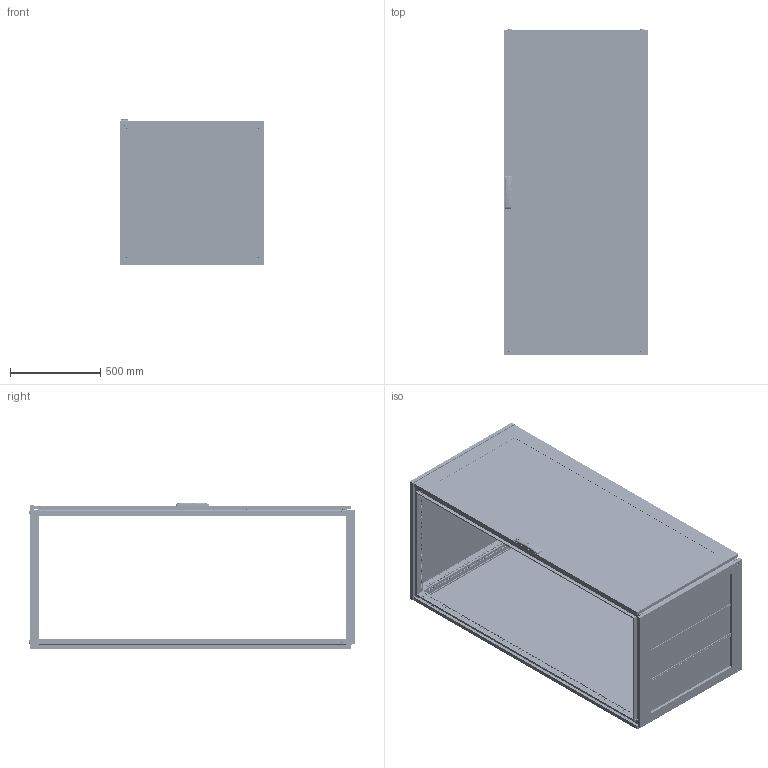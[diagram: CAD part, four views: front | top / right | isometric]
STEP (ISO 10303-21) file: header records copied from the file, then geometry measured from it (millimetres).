
FILE_DESCRIPTION (( 'STEP AP203' ), '1' );
FILE_NAME ('R5CQEN1888AX.STEP', '2025-05-07T12:00:51', ( '' ), ( '' ), 'SwSTEP 2.0', 'SolidWorks 2022', '' );
FILE_SCHEMA (( 'CONFIG_CONTROL_DESIGN' ));
Length unit declared in the file: millimetre
Products named in the file (65): Pressing stud FH-M6-12_M6x12mm; RB.2499.01.00.0 СБ simple_-20; RB.0528.04.00.0 СБ simple; RB.2455.00.00.0 simple_-03; RB.2052.00.00.0 СБ simple_-18; M6 DIN 985 cl.6,0 Zinc_straight; RB.1633.00.02.0 simple_-03; RB.2499.00.00.0 СБ simple_-21; RB.0528.04.01.0 simple; RB.2969.00.00.0 СБ simple; RB.1867.01.00.0 СБ simple_-29; 4,0x16 F Torx Zinc (ART 88200)_thread; R5NCRE-Assem simple_R5NCRE1880; M6x10 DIN 7500 E HX cl.5.8 Zinc_straight; RB.2969.00.01.0 simple; RB.2696.00.00.0 simple; PF 7,5x15 CPE simple_1800x0800; ATOS Traction guide ILY03.35; RB.2685.00.00.0 simple_-03; R5NCPTE - Assem simple_R5NCPTE1880; RB.2528.00.00.0 simple_-04; RB.0562.00.00.0 СБ simple_-13; 7 DIN 6799 Zinc simple; M6x10 DIN 912 HX cl.8,8 Zinc_straight; 7 DIN 6799 Zinc; RB.0054.01.01.0 simple_-18; RB.2680.00.00.0 СБ simple; RB.2968.00.00.0 simple; RB.0562.01.01.0 simple_-13; 4.8x13 DIN 7981 PH Zinc_straight; M6x15 Erickson cl.4,8 Zinc; RB.1867.01.01.0 simple_-14; Glass CPTE_1800x0800; RB.2680.00.02.0 simple; RB.2702.00.00.0 simple; RB.2456.00.00.0 simple_-03; RB.2052.01.00.0 СБ simple_-18; RB.2357.00.00.0 simple_-05; M12x16 ISO 7380-1 HX cl.4,8 Zinc_straight; R5NKMN - Assem simple_R5NKMN18 (800х800)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
Assembly tree (173 placements, depth 5):
  R5CQEN1888AX
    R5NCPTE - Assem simple_R5NCPTE1880
      RB.0562.00.00.0 СБ simple_-13
        RB.0562.01.00.0 СБ simple_-13
          RB.0562.01.01.0 simple_-13
          М6х12 A5100231_straight  x7
          RB.2702.00.00.0 simple  x4
          PF 7,5x15 CPE simple_1800x0800
          Glass CPTE_1800x0800
          Glue CPTE simple_1800x0800
        Square cap 20x20 simple  x2
        M6x15 Erickson cl.4,8 Zinc  x2
        RB.0528.00.01.0 simple_-04  x2
        ATOS Traction guide ILY03.35  x4
        RB.2357.00.00.0 simple_-05
        RB.2680.00.00.0 СБ simple
          TPA.08.0139.00.01.0 simple
          RB.2680.00.01.0 simple
          RB.2680.00.02.0 simple  x2
        TPA.08.0139.00.03.0  x2
        M6 DIN 985 cl.6,0 Zinc_straight  x4
        4,0x16 F Torx Zinc (ART 88200)_thread  x2
        RB.0528.04.00.0 СБ simple  x2
          RB.0528.04.01.0 simple
          Pressing stud FH-M6-12_M6x12mm
      M6x10 DIN 912 HX cl.8,8 Zinc_straight  x8
      4.8x13 DIN 7981 PH Zinc_straight
      7 DIN 6799 Zinc simple  x4
      RB.2968.00.00.0 simple  x4
      RB.2969.00.00.0 СБ simple  x4
        RB.2969.00.01.0 simple
        Pin 4x16 DIN 7 AISI 303 (A1) simple
        M6 MGR-MKO-0625 simple_Thread
      AC00C446-R
      RB.2696.00.00.0 simple  x4
      7 DIN 6799 Zinc  x4
    R5NCRE-Assem simple_R5NCRE1880
      RB.2052.00.00.0 СБ simple_-18
        RB.2052.01.00.0 СБ simple_-18
          RB.0054.01.01.0 simple_-18
          М6х12 A5100231_straight  x4
        PF 7x14 CRE simple_1800x0800
      RB.2172.00.00.1 simple  x8
      M6x10 DIN 7500 E HX cl.5.8 Zinc_straight  x8
      M6x10 DIN 7500 M Torx cl.5.8 Zinc_straight  x8
    R5NKMN - Assem simple_R5NKMN18 (800х800)
      RB.2528.00.00.0 simple_-04  x4
    R5NKTB - Assem simple_H=1800 R5NKTB88
      RB.2499.00.00.0 СБ simple_-21
        RB.2499.01.00.0 СБ simple_-20
          RB.1633.00.01.0 simple_-03  x2
          RB.1633.00.02.0 simple_-03  x2
          PF 5x10 KTB simple_800x800
        RB.2457.00.00.0 СБ simple_-21
          RB.2455.00.00.0 simple_-03  x2
          RB.2456.00.00.0 simple_-03  x2
          TPA.08.0084.00.00.0 simple  x2
          TPA.08.0083.00.00.0 simple  x2
          M8x12 AC00C476 cl.8,8 Zinc_stright  x4
        RB.1957.00.00.0 simple_-11  x3
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Bounding box: 800 x 1813.3 x 814.74 mm (x, y, z)
Volume: 17666355.7 mm3; surface area: 15695859.5 mm2
Topology: 176 solids, 192 shells, 23009 faces, 65387 edges, 43083 vertices
Faces by surface type: plane 12723, cylinder 8745, cone 704, bspline 435, torus 368, sphere 34
Entity records: 229837 total; most frequent: CARTESIAN_POINT 56303, ORIENTED_EDGE 34434, DIRECTION 32959, EDGE_CURVE 17243, VERTEX_POINT 11418, AXIS2_PLACEMENT_3D 11097, LINE 10765, VECTOR 10765
